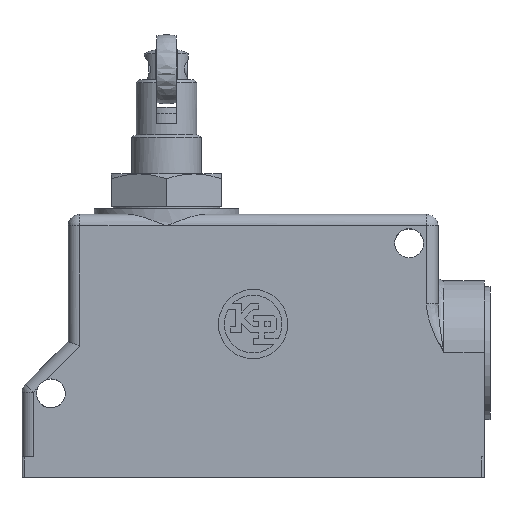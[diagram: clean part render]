
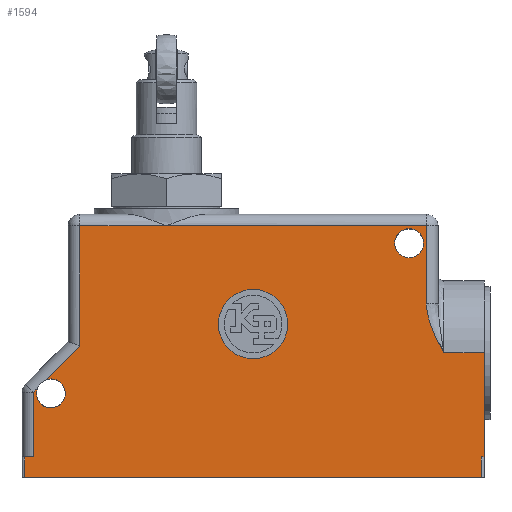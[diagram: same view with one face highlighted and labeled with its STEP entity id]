
A CAD part, top view. The second image highlights one B-rep face of the part: STEP entity #1594.
In plain terms, the highlighted planar face has unit normal (0, 0, 1).
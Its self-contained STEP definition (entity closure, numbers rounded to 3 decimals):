
#1360=CARTESIAN_POINT('',(2.,2.,12.5));
#1361=VERTEX_POINT('',#1360);
#1362=CARTESIAN_POINT('',(-4.,2.,12.5));
#1363=DIRECTION('',(0.0,0.0,-1.0));
#1364=DIRECTION('',(-1.0,0.0,0.0));
#1365=AXIS2_PLACEMENT_3D('',#1362,#1363,#1364);
#1366=CIRCLE('',#1365,6.);
#1367=EDGE_CURVE('',#1361,#1361,#1366,.T.);
#1435=CARTESIAN_POINT('',(-0.842,-0.842,12.5));
#1436=DIRECTION('',(0.0,0.0,1.0));
#1437=DIRECTION('',(1.0,0.0,0.0));
#1438=AXIS2_PLACEMENT_3D('',#1435,#1436,#1437);
#1439=PLANE('',#1438);
#1440=CARTESIAN_POINT('',(-43.5,-24.5,12.5));
#1441=VERTEX_POINT('',#1440);
#1442=CARTESIAN_POINT('',(35.5,-24.5,12.5));
#1443=VERTEX_POINT('',#1442);
#1444=CARTESIAN_POINT('',(-43.5,-24.5,12.5));
#1445=DIRECTION('',(1.0,0.0,0.0));
#1446=VECTOR('',#1445,79.0);
#1447=LINE('',#1444,#1446);
#1448=EDGE_CURVE('',#1441,#1443,#1447,.T.);
#1449=ORIENTED_EDGE('',*,*,#1448,.T.);
#1450=CARTESIAN_POINT('',(35.5,-21.,12.5));
#1451=VERTEX_POINT('',#1450);
#1452=CARTESIAN_POINT('',(35.5,-21.,12.5));
#1453=DIRECTION('',(0.0,-1.0,0.0));
#1454=VECTOR('',#1453,3.5);
#1455=LINE('',#1452,#1454);
#1456=EDGE_CURVE('',#1451,#1443,#1455,.T.);
#1457=ORIENTED_EDGE('',*,*,#1456,.F.);
#1458=CARTESIAN_POINT('',(36.0,-21.,12.5));
#1459=VERTEX_POINT('',#1458);
#1460=CARTESIAN_POINT('',(36.0,-21.0,12.5));
#1461=DIRECTION('',(-1.0,0.0,0.0));
#1462=VECTOR('',#1461,0.5);
#1463=LINE('',#1460,#1462);
#1464=EDGE_CURVE('',#1459,#1451,#1463,.T.);
#1465=ORIENTED_EDGE('',*,*,#1464,.F.);
#1466=CARTESIAN_POINT('',(36.0,-3.,12.5));
#1467=VERTEX_POINT('',#1466);
#1468=CARTESIAN_POINT('',(36.0,-3.,12.5));
#1469=DIRECTION('',(0.0,-1.0,0.0));
#1470=VECTOR('',#1469,18.0);
#1471=LINE('',#1468,#1470);
#1472=EDGE_CURVE('',#1467,#1459,#1471,.T.);
#1473=ORIENTED_EDGE('',*,*,#1472,.F.);
#1474=CARTESIAN_POINT('',(29.,-3.,12.5));
#1475=VERTEX_POINT('',#1474);
#1476=CARTESIAN_POINT('',(29.,-3.,12.5));
#1477=DIRECTION('',(1.0,0.0,0.0));
#1478=VECTOR('',#1477,7.);
#1479=LINE('',#1476,#1478);
#1480=EDGE_CURVE('',#1475,#1467,#1479,.T.);
#1481=ORIENTED_EDGE('',*,*,#1480,.F.);
#1482=CARTESIAN_POINT('',(26.,5.485,12.5));
#1483=VERTEX_POINT('',#1482);
#1484=CARTESIAN_POINT('',(26.,5.485,12.5));
#1485=CARTESIAN_POINT('',(26.,4.882,12.5));
#1486=CARTESIAN_POINT('',(26.143,3.67,12.5));
#1487=CARTESIAN_POINT('',(26.648,1.918,12.5));
#1488=CARTESIAN_POINT('',(27.22,0.524,12.5));
#1489=CARTESIAN_POINT('',(27.736,-0.571,12.5));
#1490=CARTESIAN_POINT('',(28.144,-1.383,12.5));
#1491=CARTESIAN_POINT('',(28.566,-2.188,12.5));
#1492=CARTESIAN_POINT('',(28.851,-2.721,12.5));
#1493=CARTESIAN_POINT('',(28.995,-2.991,12.5));
#1494=CARTESIAN_POINT('',(28.998,-2.996,12.5));
#1495=CARTESIAN_POINT('',(29.,-3.,12.5));
#1496=B_SPLINE_CURVE_WITH_KNOTS('',3,(#1484,#1485,#1486,#1487,#1488,#1489,#1490,#1491,#1492,#1493,#1494,#1495),.UNSPECIFIED.,.F.,.U.,(4,1,1,1,1,1,1,2,4),(0.0,0.181,0.362,0.543,0.634,0.724,0.815,0.906,0.907),.UNSPECIFIED.);
#1497=EDGE_CURVE('',#1483,#1475,#1496,.T.);
#1498=ORIENTED_EDGE('',*,*,#1497,.F.);
#1499=CARTESIAN_POINT('',(26.,19.,12.5));
#1500=VERTEX_POINT('',#1499);
#1501=CARTESIAN_POINT('',(26.,19.,12.5));
#1502=DIRECTION('',(0.0,-1.0,0.0));
#1503=VECTOR('',#1502,13.515);
#1504=LINE('',#1501,#1503);
#1505=EDGE_CURVE('',#1500,#1483,#1504,.T.);
#1506=ORIENTED_EDGE('',*,*,#1505,.F.);
#1507=CARTESIAN_POINT('',(-19.,19.,12.5));
#1508=VERTEX_POINT('',#1507);
#1509=CARTESIAN_POINT('',(-19.0,19.,12.5));
#1510=DIRECTION('',(1.0,0.0,0.0));
#1511=VECTOR('',#1510,45.);
#1512=LINE('',#1509,#1511);
#1513=EDGE_CURVE('',#1508,#1500,#1512,.T.);
#1514=ORIENTED_EDGE('',*,*,#1513,.F.);
#1515=CARTESIAN_POINT('',(-34.,19.,12.5));
#1516=VERTEX_POINT('',#1515);
#1517=CARTESIAN_POINT('',(-34.,19.,12.5));
#1518=DIRECTION('',(1.0,0.0,0.0));
#1519=VECTOR('',#1518,15.);
#1520=LINE('',#1517,#1519);
#1521=EDGE_CURVE('',#1516,#1508,#1520,.T.);
#1522=ORIENTED_EDGE('',*,*,#1521,.F.);
#1523=CARTESIAN_POINT('',(-34.,-1.828,12.5));
#1524=VERTEX_POINT('',#1523);
#1525=CARTESIAN_POINT('',(-34.,-1.828,12.5));
#1526=DIRECTION('',(0.0,1.0,0.0));
#1527=VECTOR('',#1526,20.828);
#1528=LINE('',#1525,#1527);
#1529=EDGE_CURVE('',#1524,#1516,#1528,.T.);
#1530=ORIENTED_EDGE('',*,*,#1529,.F.);
#1531=CARTESIAN_POINT('',(-39.805,-7.633,12.5));
#1532=VERTEX_POINT('',#1531);
#1533=CARTESIAN_POINT('',(-39.805,-7.633,12.5));
#1534=DIRECTION('',(0.707,0.707,0.0));
#1535=VECTOR('',#1534,8.209);
#1536=LINE('',#1533,#1535);
#1537=EDGE_CURVE('',#1532,#1524,#1536,.T.);
#1538=ORIENTED_EDGE('',*,*,#1537,.F.);
#1539=CARTESIAN_POINT('',(-41.367,-9.195,12.5));
#1540=VERTEX_POINT('',#1539);
#1541=CARTESIAN_POINT('',(-39.0,-10.0,12.5));
#1542=DIRECTION('',(0.0,0.0,-1.0));
#1543=DIRECTION('',(1.0,0.0,0.0));
#1544=AXIS2_PLACEMENT_3D('',#1541,#1542,#1543);
#1545=CIRCLE('',#1544,2.5);
#1546=EDGE_CURVE('',#1532,#1540,#1545,.T.);
#1547=ORIENTED_EDGE('',*,*,#1546,.T.);
#1548=CARTESIAN_POINT('',(-42.,-9.828,12.5));
#1549=VERTEX_POINT('',#1548);
#1550=CARTESIAN_POINT('',(-42.,-9.828,12.5));
#1551=DIRECTION('',(0.707,0.707,0.0));
#1552=VECTOR('',#1551,0.895);
#1553=LINE('',#1550,#1552);
#1554=EDGE_CURVE('',#1549,#1540,#1553,.T.);
#1555=ORIENTED_EDGE('',*,*,#1554,.F.);
#1556=CARTESIAN_POINT('',(-42.0,-21.0,12.5));
#1557=VERTEX_POINT('',#1556);
#1558=CARTESIAN_POINT('',(-42.0,-21.0,12.5));
#1559=DIRECTION('',(0.0,1.0,0.0));
#1560=VECTOR('',#1559,11.172);
#1561=LINE('',#1558,#1560);
#1562=EDGE_CURVE('',#1557,#1549,#1561,.T.);
#1563=ORIENTED_EDGE('',*,*,#1562,.F.);
#1564=CARTESIAN_POINT('',(-43.5,-21.0,12.5));
#1565=VERTEX_POINT('',#1564);
#1566=CARTESIAN_POINT('',(-42.,-21.,12.5));
#1567=DIRECTION('',(-1.0,0.0,0.0));
#1568=VECTOR('',#1567,1.5);
#1569=LINE('',#1566,#1568);
#1570=EDGE_CURVE('',#1557,#1565,#1569,.T.);
#1571=ORIENTED_EDGE('',*,*,#1570,.T.);
#1572=CARTESIAN_POINT('',(-43.5,-24.5,12.5));
#1573=DIRECTION('',(0.0,1.0,0.0));
#1574=VECTOR('',#1573,3.5);
#1575=LINE('',#1572,#1574);
#1576=EDGE_CURVE('',#1441,#1565,#1575,.T.);
#1577=ORIENTED_EDGE('',*,*,#1576,.F.);
#1578=EDGE_LOOP('',(#1449,#1457,#1465,#1473,#1481,#1498,#1506,#1514,#1522,#1530,#1538,#1547,#1555,#1563,#1571,#1577));
#1579=FACE_OUTER_BOUND('',#1578,.T.);
#1580=CARTESIAN_POINT('',(25.5,16.0,12.5));
#1581=VERTEX_POINT('',#1580);
#1582=CARTESIAN_POINT('',(23.0,16.0,12.5));
#1583=DIRECTION('',(0.0,0.0,-1.0));
#1584=DIRECTION('',(1.0,0.0,0.0));
#1585=AXIS2_PLACEMENT_3D('',#1582,#1583,#1584);
#1586=CIRCLE('',#1585,2.5);
#1587=EDGE_CURVE('',#1581,#1581,#1586,.T.);
#1588=ORIENTED_EDGE('',*,*,#1587,.T.);
#1589=EDGE_LOOP('',(#1588));
#1590=FACE_BOUND('',#1589,.T.);
#1591=ORIENTED_EDGE('',*,*,#1367,.T.);
#1592=EDGE_LOOP('',(#1591));
#1593=FACE_BOUND('',#1592,.T.);
#1594=ADVANCED_FACE('',(#1579,#1590,#1593),#1439,.T.);
